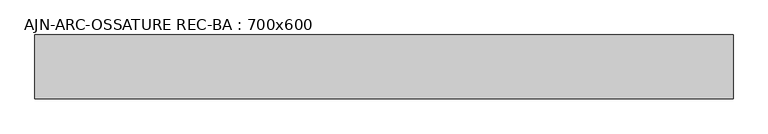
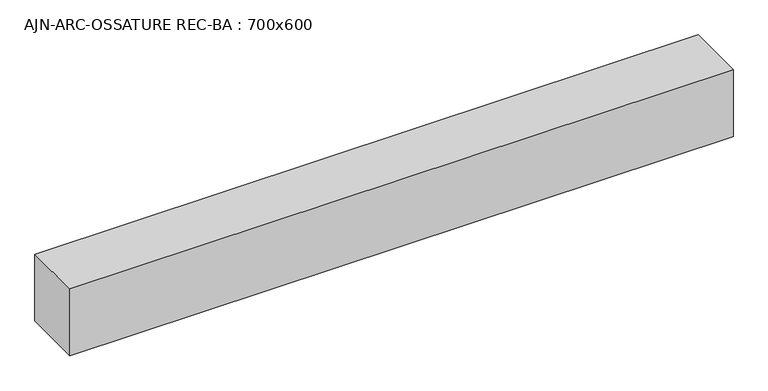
"""IFC4 building model written with IfcOpenShell, lengths in millimetres: beam geometry, AJN-ARC-OSSATURE REC-BA : 700x600."""

from ifc_helpers import new_model, si_unit, frame, origin, place, context, project, spatial, polyline, outline, extrude, source, transform, mapped, element, save


def ajn_arc_ossature_rec_ba_700x600_9ea86cff(model_context):
    return source(origin(), model_context, "Body", "SweptSolid", [
        extrude(outline(polyline([(3276.3487431, 300.0), (3276.3487431, -300.0), (-3287.752478, -300.0), (-3287.752478, 300.0), (3276.3487431, 300.0)])), frame((0.0, 0.0, -350.0), z_axis=(0.0, 0.0, 1.0), x_axis=(1.0, 0.0, 0.0)), (0.0, 0.0, 1.0), 700.0),
    ])


if __name__ == "__main__":
    model = new_model("IFC4")
    model_context = context("Model", 3, world=origin())
    ifc_project = project(units=[si_unit("LENGTHUNIT", "METRE", prefix="MILLI")], contexts=[model_context])
    site = spatial("IfcSite", under=ifc_project)
    building = spatial("IfcBuilding", under=site)
    placement = place(None, origin())
    ajn_arc_ossature_rec_ba_700x600_shape = ajn_arc_ossature_rec_ba_700x600_9ea86cff(model_context)
    element("IfcBeam", 1, ObjectType="AJN-ARC-OSSATURE REC-BA : 700x600", at=placement, inside=building, context=model_context, shape_type="MappedRepresentation", body=[
        mapped(ajn_arc_ossature_rec_ba_700x600_shape, transform((0.0, 0.0, 0.0), x_axis=(1.0, 0.0, 0.0), y_axis=(0.0, 1.0, 0.0), z_axis=(0.0, 0.0, 1.0))),
    ])
    save(model, "model.ifc")
